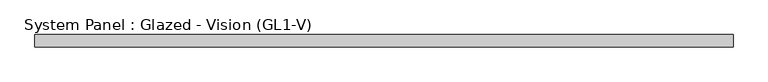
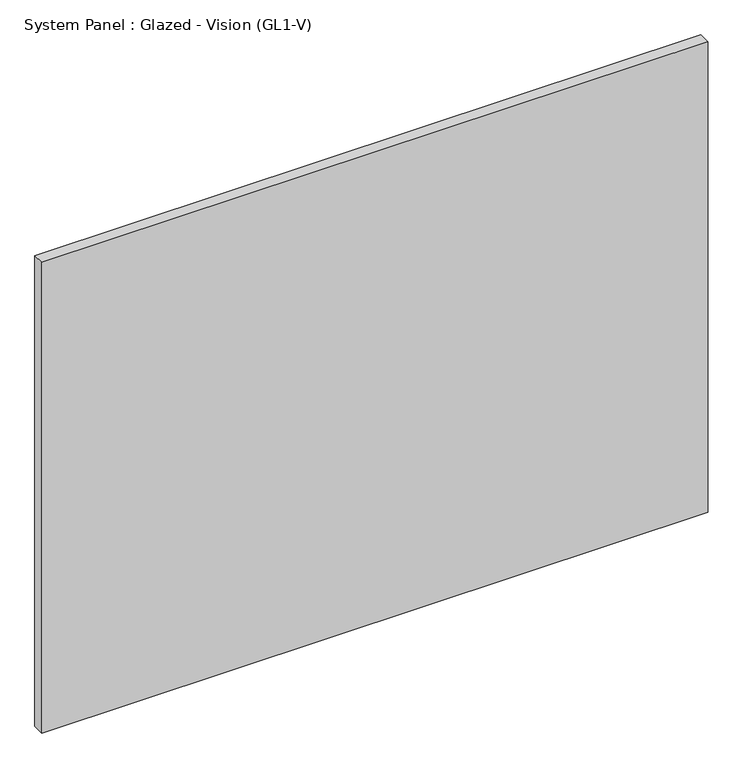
"""IFC4 building model written with IfcOpenShell, lengths in millimetres: plate geometry, System Panel : Glazed - Vision (GL1-V)."""

from ifc_helpers import new_model, si_unit, origin, origin_with_axes, place, context, project, spatial, polyline, outline, extrude, source, transform, mapped, element, save


def system_panel_glazed_vision_gl1_v_1c235d2b(model_context):
    return source(origin(), model_context, "Body", "SweptSolid", [
        extrude(outline(polyline([(714.375, -25.4), (-714.375, -25.4), (-714.375, 0.0), (714.375, 0.0), (714.375, -25.4)])), origin_with_axes(), (0.0, 0.0, 1.0), 1066.8000021),
    ])


if __name__ == "__main__":
    model = new_model("IFC4")
    model_context = context("Model", 3, world=origin())
    ifc_project = project(units=[si_unit("LENGTHUNIT", "METRE", prefix="MILLI")], contexts=[model_context])
    site = spatial("IfcSite", under=ifc_project)
    building = spatial("IfcBuilding", under=site)
    placement = place(None, origin())
    system_panel_glazed_vision_gl1_v_shape = system_panel_glazed_vision_gl1_v_1c235d2b(model_context)
    element("IfcPlate", 1, ObjectType="System Panel : Glazed - Vision (GL1-V)", at=placement, inside=building, context=model_context, shape_type="MappedRepresentation", body=[
        mapped(system_panel_glazed_vision_gl1_v_shape, transform((0.0, 0.0, 0.0), x_axis=(1.0, 0.0, 0.0), y_axis=(0.0, 1.0, 0.0), z_axis=(0.0, 0.0, 1.0))),
    ])
    save(model, "model.ifc")
